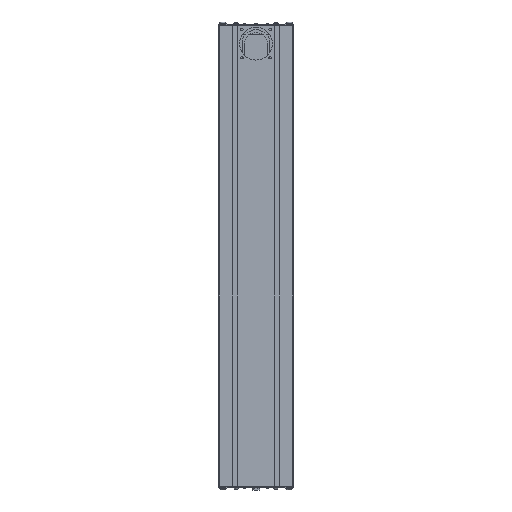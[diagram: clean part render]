
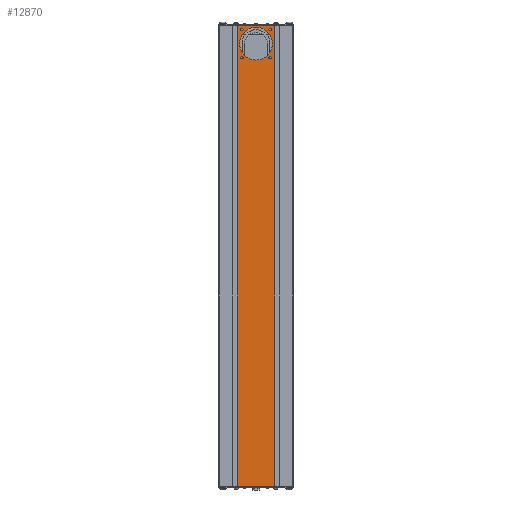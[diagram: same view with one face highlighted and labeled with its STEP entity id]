
A CAD part, front view. The second image highlights one B-rep face of the part: STEP entity #12870.
In plain terms, the highlighted planar face has unit normal (0, -1, 0).
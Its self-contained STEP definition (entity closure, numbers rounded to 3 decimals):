
#53 = VERTEX_POINT ( 'NONE', #11314 ) ;
#339 = DIRECTION ( 'NONE',  ( 0., 0., -1. ) ) ;
#791 = DIRECTION ( 'NONE',  ( 1., 0., 0. ) ) ;
#1904 = DIRECTION ( 'NONE',  ( 0., -1., 0. ) ) ;
#1975 = DIRECTION ( 'NONE',  ( 0., 0., -1. ) ) ;
#1983 = DIRECTION ( 'NONE',  ( 0., -1., 0. ) ) ;
#2059 = CARTESIAN_POINT ( 'NONE',  ( 0., 0., 453.5 ) ) ;
#2232 = CARTESIAN_POINT ( 'NONE',  ( -39.95, 0., -491.5 ) ) ;
#2489 = EDGE_CURVE ( 'NONE', #23181, #30782, #15005, .T. ) ;
#2508 = DIRECTION ( 'NONE',  ( 0., -1., 0. ) ) ;
#2727 = DIRECTION ( 'NONE',  ( 0., -1., 0. ) ) ;
#2945 = CARTESIAN_POINT ( 'NONE',  ( -30.052, 0., 486.052 ) ) ;
#3007 = EDGE_LOOP ( 'NONE', ( #20299, #11675, #26041, #22015 ) ) ;
#3120 = FACE_BOUND ( 'NONE', #19077, .T. ) ;
#3181 = LINE ( 'NONE', #13482, #11385 ) ;
#3475 = EDGE_CURVE ( 'NONE', #22283, #31161, #4633, .T. ) ;
#3577 = EDGE_LOOP ( 'NONE', ( #6120, #29655 ) ) ;
#3761 = DIRECTION ( 'NONE',  ( 0., 0., 1. ) ) ;
#4419 = EDGE_CURVE ( 'NONE', #27228, #21864, #4931, .T. ) ;
#4468 = CIRCLE ( 'NONE', #19702, 2.5 ) ;
#4633 = LINE ( 'NONE', #23408, #25618 ) ;
#4931 = CIRCLE ( 'NONE', #8981, 2.5 ) ;
#4984 = AXIS2_PLACEMENT_3D ( 'NONE', #14391, #2508, #21088 ) ;
#5092 = CARTESIAN_POINT ( 'NONE',  ( 0., 0., 453.5 ) ) ;
#5252 = CIRCLE ( 'NONE', #25590, 35. ) ;
#5347 = DIRECTION ( 'NONE',  ( 0., 0., -1. ) ) ;
#5583 = EDGE_CURVE ( 'NONE', #22283, #13249, #31024, .T. ) ;
#5945 = AXIS2_PLACEMENT_3D ( 'NONE', #14491, #31234, #1975 ) ;
#6120 = ORIENTED_EDGE ( 'NONE', *, *, #12478, .F. ) ;
#7434 = CARTESIAN_POINT ( 'NONE',  ( 30.052, 0., 486.052 ) ) ;
#7583 = VERTEX_POINT ( 'NONE', #25950 ) ;
#8018 = DIRECTION ( 'NONE',  ( 0., 0., -1. ) ) ;
#8189 = CARTESIAN_POINT ( 'NONE',  ( -30.052, 0., 425.948 ) ) ;
#8832 = EDGE_CURVE ( 'NONE', #16823, #15754, #5252, .T. ) ;
#8981 = AXIS2_PLACEMENT_3D ( 'NONE', #18120, #15574, #13318 ) ;
#9020 = CIRCLE ( 'NONE', #26813, 2.5 ) ;
#9120 = EDGE_CURVE ( 'NONE', #15754, #16823, #9357, .T. ) ;
#9340 = AXIS2_PLACEMENT_3D ( 'NONE', #22196, #29841, #8018 ) ;
#9357 = CIRCLE ( 'NONE', #26108, 35. ) ;
#10350 = CIRCLE ( 'NONE', #9340, 2.5 ) ;
#11314 = CARTESIAN_POINT ( 'NONE',  ( -30.052, 0., 481.052 ) ) ;
#11385 = VECTOR ( 'NONE', #791, 1000. ) ;
#11430 = CARTESIAN_POINT ( 'NONE',  ( -30.052, 0., 420.948 ) ) ;
#11675 = ORIENTED_EDGE ( 'NONE', *, *, #5583, .F. ) ;
#12364 = CARTESIAN_POINT ( 'NONE',  ( -39.95, 0., -491.5 ) ) ;
#12368 = ORIENTED_EDGE ( 'NONE', *, *, #9120, .F. ) ;
#12478 = EDGE_CURVE ( 'NONE', #7583, #29594, #10350, .T. ) ;
#12645 = CARTESIAN_POINT ( 'NONE',  ( 0., 0., -491.5 ) ) ;
#12659 = DIRECTION ( 'NONE',  ( 0., 0., -1. ) ) ;
#12870 = ADVANCED_FACE ( 'NONE', ( #27302, #24936, #26994, #29403, #3120, #19524 ), #25090, .T. ) ;
#13249 = VERTEX_POINT ( 'NONE', #19804 ) ;
#13318 = DIRECTION ( 'NONE',  ( 0., 0., -1. ) ) ;
#13482 = CARTESIAN_POINT ( 'NONE',  ( 0., 0., 491.5 ) ) ;
#13992 = AXIS2_PLACEMENT_3D ( 'NONE', #30610, #1983, #28378 ) ;
#14117 = DIRECTION ( 'NONE',  ( 0., 0., -1. ) ) ;
#14121 = DIRECTION ( 'NONE',  ( 0., 0., -1. ) ) ;
#14391 = CARTESIAN_POINT ( 'NONE',  ( 30.052, 0., 483.552 ) ) ;
#14467 = EDGE_CURVE ( 'NONE', #53, #22790, #19683, .T. ) ;
#14491 = CARTESIAN_POINT ( 'NONE',  ( -30.052, 0., 483.552 ) ) ;
#14814 = EDGE_LOOP ( 'NONE', ( #17147, #25286 ) ) ;
#14915 = CARTESIAN_POINT ( 'NONE',  ( -30.052, 0., 483.552 ) ) ;
#15005 = CIRCLE ( 'NONE', #13992, 2.5 ) ;
#15351 = CARTESIAN_POINT ( 'NONE',  ( 39.95, 0., -491.5 ) ) ;
#15459 = DIRECTION ( 'NONE',  ( 0., 0., -1. ) ) ;
#15574 = DIRECTION ( 'NONE',  ( 0., -1., 0. ) ) ;
#15754 = VERTEX_POINT ( 'NONE', #20076 ) ;
#16007 = CARTESIAN_POINT ( 'NONE',  ( 39.95, 0., -491.5 ) ) ;
#16724 = EDGE_LOOP ( 'NONE', ( #20924, #29701 ) ) ;
#16823 = VERTEX_POINT ( 'NONE', #18479 ) ;
#17146 = DIRECTION ( 'NONE',  ( 0., -1., 0. ) ) ;
#17147 = ORIENTED_EDGE ( 'NONE', *, *, #20395, .F. ) ;
#17153 = CIRCLE ( 'NONE', #27826, 2.5 ) ;
#18120 = CARTESIAN_POINT ( 'NONE',  ( -30.052, 0., 423.448 ) ) ;
#18331 = DIRECTION ( 'NONE',  ( 0., -1., 0. ) ) ;
#18408 = ORIENTED_EDGE ( 'NONE', *, *, #8832, .F. ) ;
#18422 = ORIENTED_EDGE ( 'NONE', *, *, #18861, .F. ) ;
#18479 = CARTESIAN_POINT ( 'NONE',  ( 0., 0., 418.5 ) ) ;
#18598 = DIRECTION ( 'NONE',  ( 0., -1., 0. ) ) ;
#18861 = EDGE_CURVE ( 'NONE', #21864, #27228, #9020, .T. ) ;
#18946 = ORIENTED_EDGE ( 'NONE', *, *, #4419, .F. ) ;
#19077 = EDGE_LOOP ( 'NONE', ( #18408, #12368 ) ) ;
#19085 = CARTESIAN_POINT ( 'NONE',  ( 30.052, 0., 481.052 ) ) ;
#19524 = FACE_OUTER_BOUND ( 'NONE', #3007, .T. ) ;
#19683 = CIRCLE ( 'NONE', #5945, 2.5 ) ;
#19702 = AXIS2_PLACEMENT_3D ( 'NONE', #14915, #17146, #12659 ) ;
#19804 = CARTESIAN_POINT ( 'NONE',  ( -39.95, 0., 491.5 ) ) ;
#20076 = CARTESIAN_POINT ( 'NONE',  ( 0., 0., 488.5 ) ) ;
#20087 = EDGE_CURVE ( 'NONE', #22790, #53, #4468, .T. ) ;
#20299 = ORIENTED_EDGE ( 'NONE', *, *, #29819, .F. ) ;
#20395 = EDGE_CURVE ( 'NONE', #30782, #23181, #21717, .T. ) ;
#20564 = DIRECTION ( 'NONE',  ( 0., 0., 1. ) ) ;
#20871 = CARTESIAN_POINT ( 'NONE',  ( 39.95, 0., 491.5 ) ) ;
#20924 = ORIENTED_EDGE ( 'NONE', *, *, #14467, .F. ) ;
#21088 = DIRECTION ( 'NONE',  ( 0., 0., -1. ) ) ;
#21185 = CARTESIAN_POINT ( 'NONE',  ( 30.052, 0., 425.948 ) ) ;
#21717 = CIRCLE ( 'NONE', #4984, 2.5 ) ;
#21765 = CARTESIAN_POINT ( 'NONE',  ( -30.052, 0., 423.448 ) ) ;
#21864 = VERTEX_POINT ( 'NONE', #8189 ) ;
#22015 = ORIENTED_EDGE ( 'NONE', *, *, #26606, .T. ) ;
#22196 = CARTESIAN_POINT ( 'NONE',  ( 30.052, 0., 423.448 ) ) ;
#22283 = VERTEX_POINT ( 'NONE', #12364 ) ;
#22790 = VERTEX_POINT ( 'NONE', #2945 ) ;
#22885 = VECTOR ( 'NONE', #20564, 1000. ) ;
#23181 = VERTEX_POINT ( 'NONE', #7434 ) ;
#23408 = CARTESIAN_POINT ( 'NONE',  ( 0., 0., -491.5 ) ) ;
#24873 = EDGE_CURVE ( 'NONE', #29594, #7583, #17153, .T. ) ;
#24936 = FACE_BOUND ( 'NONE', #25083, .T. ) ;
#25083 = EDGE_LOOP ( 'NONE', ( #18946, #18422 ) ) ;
#25090 = PLANE ( 'NONE',  #29753 ) ;
#25286 = ORIENTED_EDGE ( 'NONE', *, *, #2489, .F. ) ;
#25348 = CARTESIAN_POINT ( 'NONE',  ( 30.052, 0., 423.448 ) ) ;
#25572 = LINE ( 'NONE', #16007, #26451 ) ;
#25590 = AXIS2_PLACEMENT_3D ( 'NONE', #5092, #2727, #339 ) ;
#25618 = VECTOR ( 'NONE', #30742, 1000. ) ;
#25950 = CARTESIAN_POINT ( 'NONE',  ( 30.052, 0., 420.948 ) ) ;
#26041 = ORIENTED_EDGE ( 'NONE', *, *, #3475, .T. ) ;
#26108 = AXIS2_PLACEMENT_3D ( 'NONE', #2059, #18598, #14121 ) ;
#26451 = VECTOR ( 'NONE', #3761, 1000. ) ;
#26606 = EDGE_CURVE ( 'NONE', #31161, #31454, #25572, .T. ) ;
#26813 = AXIS2_PLACEMENT_3D ( 'NONE', #21765, #1904, #14117 ) ;
#26994 = FACE_BOUND ( 'NONE', #16724, .T. ) ;
#27150 = DIRECTION ( 'NONE',  ( 0., -1., 0. ) ) ;
#27228 = VERTEX_POINT ( 'NONE', #11430 ) ;
#27302 = FACE_BOUND ( 'NONE', #3577, .T. ) ;
#27826 = AXIS2_PLACEMENT_3D ( 'NONE', #25348, #18331, #15459 ) ;
#28378 = DIRECTION ( 'NONE',  ( 0., 0., -1. ) ) ;
#29403 = FACE_BOUND ( 'NONE', #14814, .T. ) ;
#29594 = VERTEX_POINT ( 'NONE', #21185 ) ;
#29655 = ORIENTED_EDGE ( 'NONE', *, *, #24873, .F. ) ;
#29701 = ORIENTED_EDGE ( 'NONE', *, *, #20087, .F. ) ;
#29753 = AXIS2_PLACEMENT_3D ( 'NONE', #12645, #27150, #5347 ) ;
#29819 = EDGE_CURVE ( 'NONE', #13249, #31454, #3181, .T. ) ;
#29841 = DIRECTION ( 'NONE',  ( 0., -1., 0. ) ) ;
#30610 = CARTESIAN_POINT ( 'NONE',  ( 30.052, 0., 483.552 ) ) ;
#30742 = DIRECTION ( 'NONE',  ( 1., 0., 0. ) ) ;
#30782 = VERTEX_POINT ( 'NONE', #19085 ) ;
#31024 = LINE ( 'NONE', #2232, #22885 ) ;
#31161 = VERTEX_POINT ( 'NONE', #15351 ) ;
#31234 = DIRECTION ( 'NONE',  ( 0., -1., 0. ) ) ;
#31454 = VERTEX_POINT ( 'NONE', #20871 ) ;
